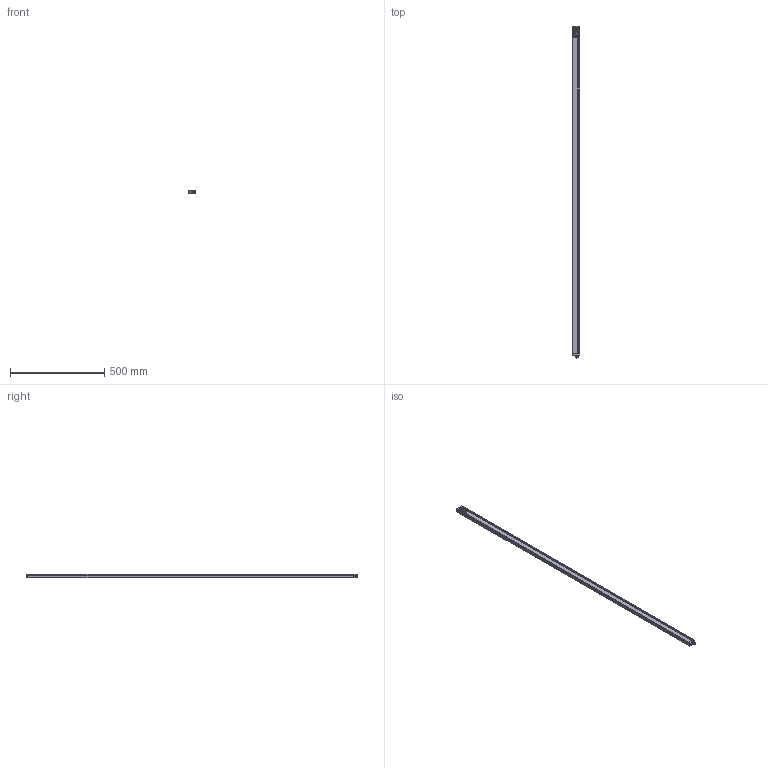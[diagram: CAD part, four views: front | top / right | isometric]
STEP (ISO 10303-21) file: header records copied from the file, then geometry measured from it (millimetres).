
FILE_DESCRIPTION(/* description */ (''),/* implementation_level */ '2;1');
FILE_NAME(/* name */ 'C:\Users\andre\SynologyDrive\Optoscan\Libreria Componenti\00 - Barriere\Polaris sorgente\Barriera Polaris RX\Polaris_1730_RX.stp',/* time_stamp */ '2021-06-04T11:56:25+02:00',/* author */ ('andre'),/* organization */ (''),/* preprocessor_version */ 'ST-DEVELOPER v18',/* originating_system */ 'Autodesk Inventor 2020',/* authorisation */ '');
FILE_SCHEMA (('AUTOMOTIVE_DESIGN { 1 0 10303 214 3 1 1 }'));
Length unit declared in the file: millimetre
Products named in the file (1): Polaris_1730_RX
Bounding box: 40.5 x 1761.3 x 20.75 mm (x, y, z)
Volume: 347641.3 mm3; surface area: 460388 mm2
Topology: 1 solids, 1 shells, 700 faces, 1926 edges, 1237 vertices
Faces by surface type: plane 319, cylinder 199, bspline 94, torus 70, sphere 10, cone 8
Full cylindrical faces by diameter (mm): 1 x8, 2.459 x4, 2.5 x4, 3 x4, 3.5 x4, 5.5 x4, 8 x1, 10.5 x2, 11.75 x9, 15.7 x1, 17.5 x1
Entity records: 28472 total; most frequent: CARTESIAN_POINT 10246, ORIENTED_EDGE 3826, DIRECTION 3447, EDGE_CURVE 1913, VERTEX_POINT 1237, AXIS2_PLACEMENT_3D 1211, LINE 1025, VECTOR 1025
